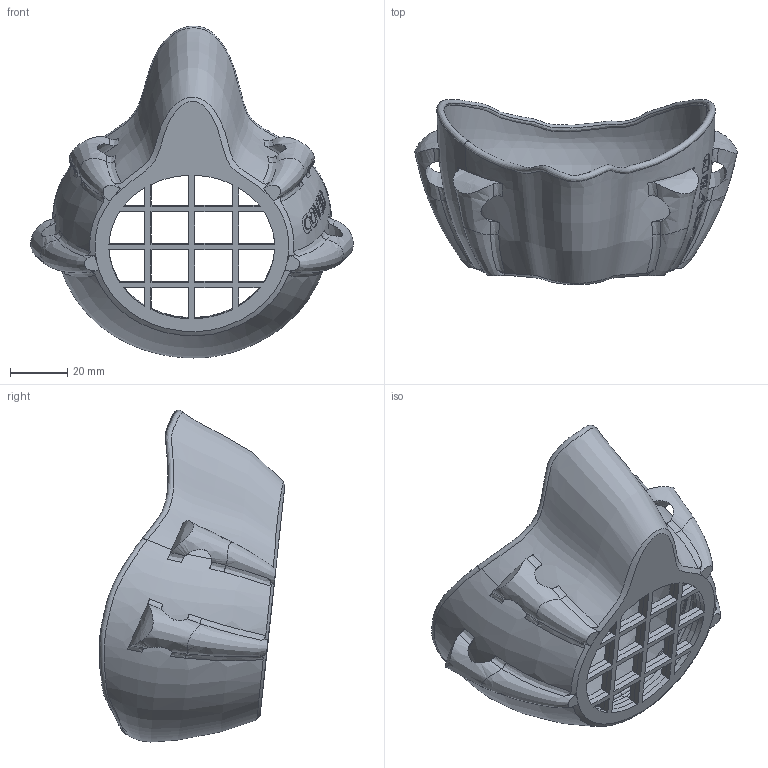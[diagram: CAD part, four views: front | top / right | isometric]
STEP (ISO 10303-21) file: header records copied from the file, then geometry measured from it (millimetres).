
FILE_DESCRIPTION(/* description */ (''),/* implementation_level */ '2;1');
FILE_NAME(/* name */ 'S-NARR~2',/* time_stamp */ '2020-04-10T21:25:06+03:00',/* author */ (''),/* organization */ (''),/* preprocessor_version */ 'ST-DEVELOPER v16.5',/* originating_system */ '',/* authorisation */ '');
FILE_SCHEMA (('AUTOMOTIVE_DESIGN'));
Length unit declared in the file: millimetre
Products named in the file (1): Document
Bounding box: 113.06 x 65.11 x 116.4 mm (x, y, z)
Volume: 46168.6 mm3; surface area: 42612.2 mm2
Topology: 1 solids, 1 shells, 312 faces, 797 edges, 489 vertices
Faces by surface type: bspline 209, plane 103
Entity records: 184217 total; most frequent: CARTESIAN_POINT 179229, ORIENTED_EDGE 1594, EDGE_CURVE 797, B_SPLINE_CURVE_WITH_KNOTS 625, VERTEX_POINT 489, EDGE_LOOP 354, ADVANCED_FACE 312, FACE_OUTER_BOUND 312
